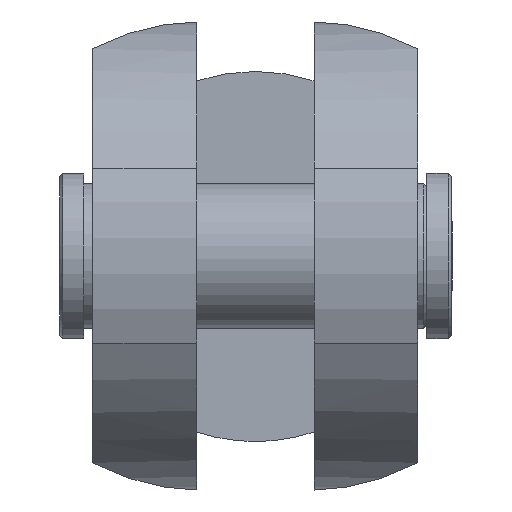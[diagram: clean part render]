
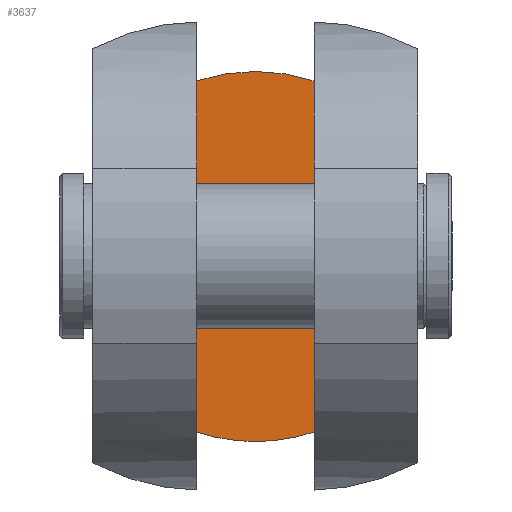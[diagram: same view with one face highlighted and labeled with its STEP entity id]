
A CAD part, top view. The second image highlights one B-rep face of the part: STEP entity #3637.
In plain terms, the highlighted planar face has unit normal (0, 0, 1).
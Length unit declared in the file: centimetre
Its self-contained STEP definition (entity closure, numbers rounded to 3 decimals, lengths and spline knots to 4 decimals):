
#173=PLANE('',#3843);
#586=LINE('',#6008,#942);
#587=LINE('',#6010,#943);
#942=VECTOR('',#4577,11.6577);
#943=VECTOR('',#4580,11.6577);
#1182=FACE_OUTER_BOUND('',#1406,.T.);
#1406=EDGE_LOOP('',(#3159,#3160,#3161,#3162));
#1473=CIRCLE('',#3697,6.1464);
#1474=CIRCLE('',#3698,6.1464);
#1537=VERTEX_POINT('',#4886);
#1538=VERTEX_POINT('',#4890);
#1543=VERTEX_POINT('',#4922);
#1544=VERTEX_POINT('',#4926);
#1868=EDGE_CURVE('',#1537,#1538,#1473,.T.);
#1874=EDGE_CURVE('',#1543,#1544,#1474,.T.);
#2269=EDGE_CURVE('',#1544,#1537,#586,.T.);
#2270=EDGE_CURVE('',#1543,#1538,#587,.T.);
#3159=ORIENTED_EDGE('',*,*,#1874,.F.);
#3160=ORIENTED_EDGE('',*,*,#2270,.T.);
#3161=ORIENTED_EDGE('',*,*,#1868,.F.);
#3162=ORIENTED_EDGE('',*,*,#2269,.F.);
#3637=ADVANCED_FACE('',(#1182),#173,.F.);
#3697=AXIS2_PLACEMENT_3D('',#4891,#3951,#3952);
#3698=AXIS2_PLACEMENT_3D('',#4927,#3953,#3954);
#3843=AXIS2_PLACEMENT_3D('',#6009,#4578,#4579);
#3951=DIRECTION('center_axis',(0.,0.,
-1.));
#3952=DIRECTION('ref_axis',(0.,-1.,0.));
#3953=DIRECTION('center_axis',(0.,0.,
-1.));
#3954=DIRECTION('ref_axis',(0.,-1.,0.));
#4577=DIRECTION('',(0.,1.,0.));
#4578=DIRECTION('center_axis',(0.,0.,
-1.));
#4579=DIRECTION('ref_axis',(-1.,0.,0.));
#4580=DIRECTION('',(0.,1.,0.));
#4886=CARTESIAN_POINT('',(-1.95,5.8289,-9.6));
#4890=CARTESIAN_POINT('',(1.95,5.8289,-9.6));
#4891=CARTESIAN_POINT('Origin',(0.,0.,
-9.6));
#4922=CARTESIAN_POINT('',(1.95,-5.8289,-9.6));
#4926=CARTESIAN_POINT('',(-1.95,-5.8289,-9.6));
#4927=CARTESIAN_POINT('Origin',(0.,0.,
-9.6));
#6008=CARTESIAN_POINT('',(-1.95,0.,-9.6));
#6009=CARTESIAN_POINT('Origin',(1.95,0.,
-9.6));
#6010=CARTESIAN_POINT('',(1.95,0.,-9.6));
